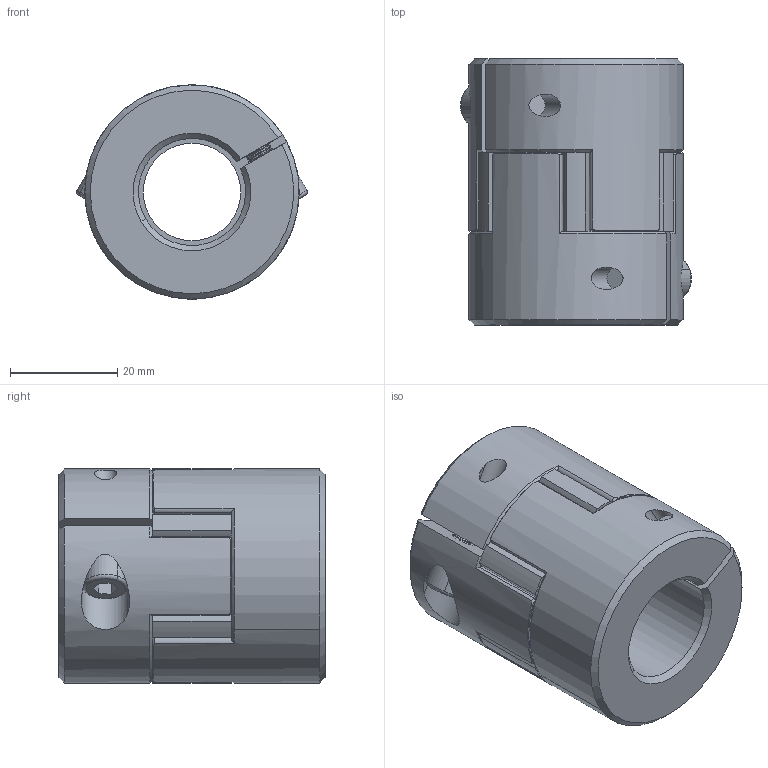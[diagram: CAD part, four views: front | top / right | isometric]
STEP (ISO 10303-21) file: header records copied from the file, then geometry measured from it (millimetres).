
FILE_DESCRIPTION (( 'STEP AP203' ), '1' );
FILE_NAME ('LF-B-D40L50-19-20.STEP', '2021-10-27T05:51:31', ( '' ), ( '' ), 'SwSTEP 2.0', 'SolidWorks 2018', '' );
FILE_SCHEMA (( 'CONFIG_CONTROL_DESIGN' ));
Length unit declared in the file: millimetre
Products named in the file (1): LF-B-D40L50-19-20
Bounding box: 43.11 x 49.7 x 40 mm (x, y, z)
Volume: 46599.9 mm3; surface area: 14630.8 mm2
Topology: 1 solids, 7 shells, 469 faces, 1109 edges, 658 vertices
Faces by surface type: cone 170, cylinder 169, plane 126, torus 4
Entity records: 13892 total; most frequent: CARTESIAN_POINT 2881, DIRECTION 2493, ORIENTED_EDGE 2210, EDGE_CURVE 1105, AXIS2_PLACEMENT_3D 1034, VERTEX_POINT 658, CIRCLE 564, EDGE_LOOP 487
